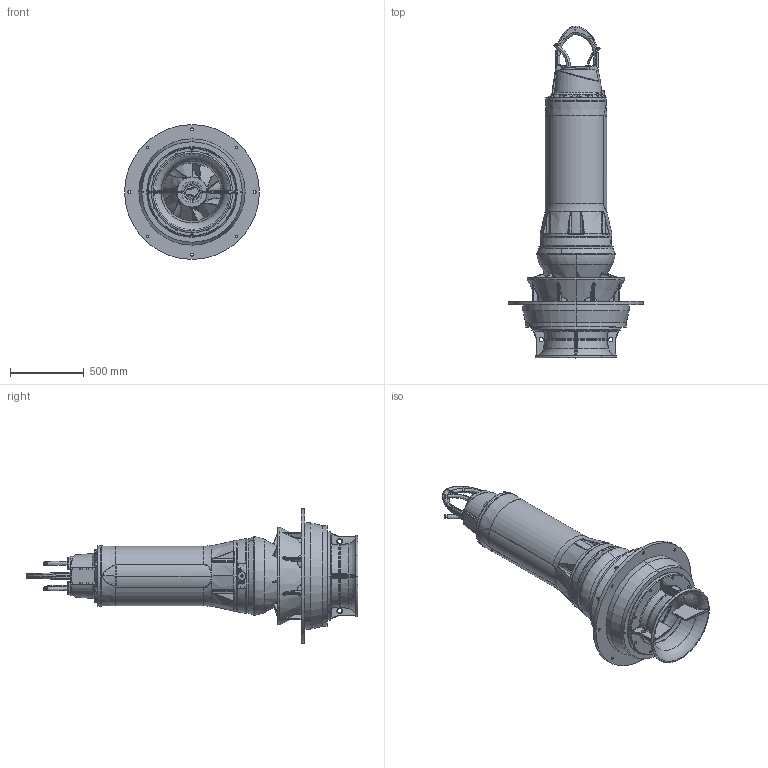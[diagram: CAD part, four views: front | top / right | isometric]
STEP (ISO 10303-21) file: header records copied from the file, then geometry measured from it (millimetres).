
FILE_DESCRIPTION (( 'STEP AP214' ), '1' );
FILE_NAME ('SE5 VUPC 0501-0502 FU B.STEP', '2020-09-24T15:32:05', ( '' ), ( '' ), 'SwSTEP 2.0', 'SolidWorks 2017', '' );
FILE_SCHEMA (( 'AUTOMOTIVE_DESIGN' ));
Length unit declared in the file: millimetre
Products named in the file (1): SE5 VUPC 0501-0502 FU B
Bounding box: 913 x 2246.96 x 913 mm (x, y, z)
Volume: 94150249.6 mm3; surface area: 11072038.4 mm2
Topology: 30 solids, 31 shells, 4439 faces, 10621 edges, 6092 vertices
Faces by surface type: bspline 1522, cylinder 1177, plane 600, torus 526, cone 469, sphere 145
Entity records: 637869 total; most frequent: CARTESIAN_POINT 497539, ORIENTED_EDGE 20618, DIRECTION 17217, EDGE_CURVE 10309, AXIS2_PLACEMENT_3D 7403, VERTEX_POINT 6085, EDGE_LOOP 4776, CIRCLE 4487
